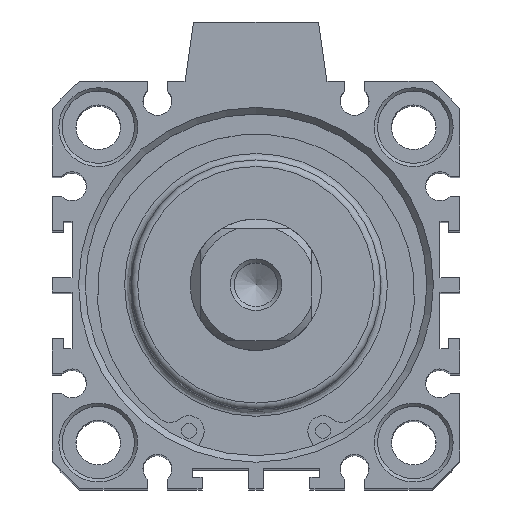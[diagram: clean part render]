
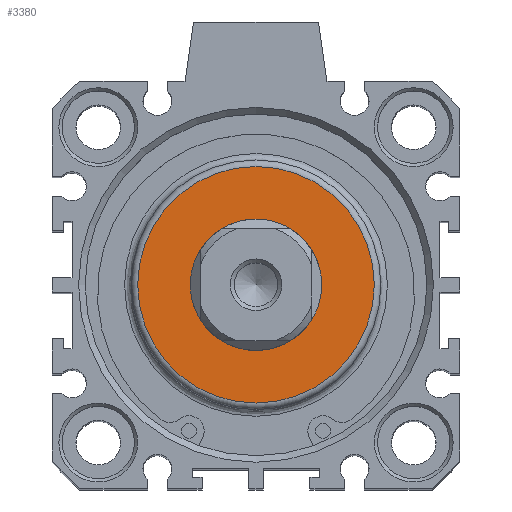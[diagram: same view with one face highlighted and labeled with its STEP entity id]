
A CAD part, top view. The second image highlights one B-rep face of the part: STEP entity #3380.
In plain terms, the highlighted planar face has unit normal (0, 0, 1).
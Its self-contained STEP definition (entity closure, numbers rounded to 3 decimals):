
#2900=CARTESIAN_POINT('',(-7.057,11.794,132.5));
#2901=VERTEX_POINT('',#2900);
#2902=CARTESIAN_POINT('',(-7.057,1.794,132.5));
#2903=DIRECTION('',(0.0,0.0,-1.0));
#2904=DIRECTION('',(0.0,1.0,0.0));
#2905=AXIS2_PLACEMENT_3D('',#2902,#2903,#2904);
#2906=CIRCLE('',#2905,10.);
#2907=EDGE_CURVE('',#2901,#2901,#2906,.T.);
#3354=CARTESIAN_POINT('',(-7.057,19.794,132.5));
#3355=VERTEX_POINT('',#3354);
#3356=CARTESIAN_POINT('',(-7.057,1.794,132.5));
#3357=DIRECTION('',(0.0,0.0,-1.0));
#3358=DIRECTION('',(0.0,-1.0,0.0));
#3359=AXIS2_PLACEMENT_3D('',#3356,#3357,#3358);
#3360=CIRCLE('',#3359,18.);
#3361=EDGE_CURVE('',#3355,#3355,#3360,.T.);
#3369=CARTESIAN_POINT('',(-7.057,11.294,132.5));
#3370=DIRECTION('',(0.0,0.0,1.0));
#3371=DIRECTION('',(1.0,0.0,0.0));
#3372=AXIS2_PLACEMENT_3D('',#3369,#3370,#3371);
#3373=PLANE('',#3372);
#3374=ORIENTED_EDGE('',*,*,#3361,.F.);
#3375=EDGE_LOOP('',(#3374));
#3376=FACE_OUTER_BOUND('',#3375,.T.);
#3377=ORIENTED_EDGE('',*,*,#2907,.T.);
#3378=EDGE_LOOP('',(#3377));
#3379=FACE_BOUND('',#3378,.T.);
#3380=ADVANCED_FACE('',(#3376,#3379),#3373,.T.);
